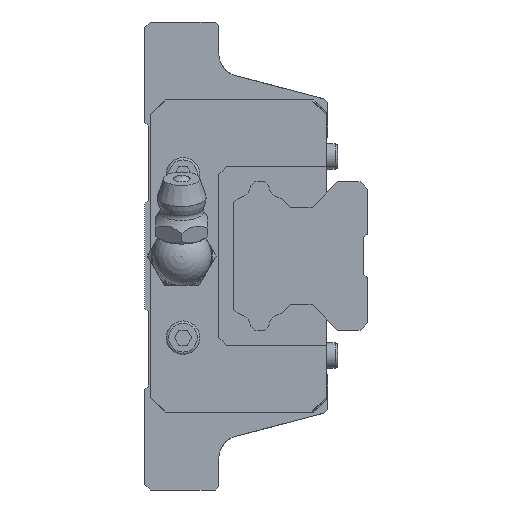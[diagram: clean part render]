
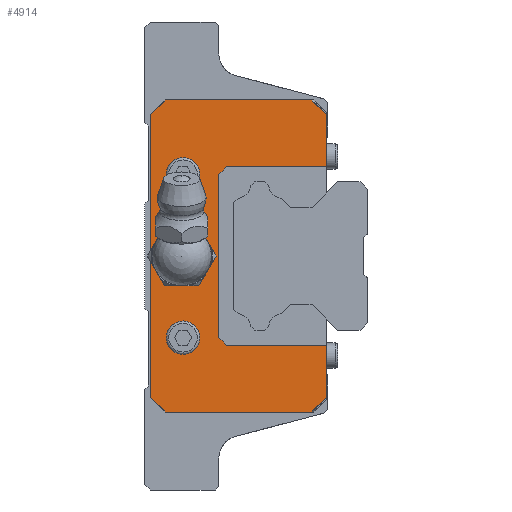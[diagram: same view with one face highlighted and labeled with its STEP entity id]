
A CAD part, left-side view. The second image highlights one B-rep face of the part: STEP entity #4914.
In plain terms, the highlighted planar face has unit normal (-1, 0, 0).
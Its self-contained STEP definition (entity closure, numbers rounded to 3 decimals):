
#230=CIRCLE('',#5337,3.);
#231=CIRCLE('',#5338,2.25);
#232=CIRCLE('',#5339,2.25);
#370=LINE('',#7177,#874);
#395=LINE('',#7233,#899);
#407=LINE('',#7259,#911);
#443=LINE('',#7335,#947);
#467=LINE('',#7381,#971);
#491=LINE('',#7437,#995);
#497=LINE('',#7454,#1001);
#646=LINE('',#7903,#1150);
#648=LINE('',#7906,#1152);
#655=LINE('',#7931,#1159);
#656=LINE('',#7934,#1160);
#657=LINE('',#7935,#1161);
#658=LINE('',#7937,#1162);
#659=LINE('',#7939,#1163);
#874=VECTOR('',#5797,1000.);
#899=VECTOR('',#5830,1000.);
#911=VECTOR('',#5850,1000.);
#947=VECTOR('',#5906,1000.);
#971=VECTOR('',#5952,1000.);
#995=VECTOR('',#5992,1000.);
#1001=VECTOR('',#6004,1000.);
#1150=VECTOR('',#6373,1000.);
#1152=VECTOR('',#6377,1000.);
#1159=VECTOR('',#6400,1000.);
#1160=VECTOR('',#6401,1000.);
#1161=VECTOR('',#6402,1000.);
#1162=VECTOR('',#6403,1000.);
#1163=VECTOR('',#6404,1000.);
#2119=ORIENTED_EDGE('',*,*,#3141,.T.);
#2120=ORIENTED_EDGE('',*,*,#3142,.F.);
#2121=ORIENTED_EDGE('',*,*,#3143,.F.);
#2122=ORIENTED_EDGE('',*,*,#3144,.T.);
#2123=ORIENTED_EDGE('',*,*,#3145,.T.);
#2124=ORIENTED_EDGE('',*,*,#2916,.F.);
#2125=ORIENTED_EDGE('',*,*,#3129,.T.);
#2126=ORIENTED_EDGE('',*,*,#2824,.F.);
#2127=ORIENTED_EDGE('',*,*,#2811,.F.);
#2128=ORIENTED_EDGE('',*,*,#2888,.F.);
#2129=ORIENTED_EDGE('',*,*,#2784,.F.);
#2130=ORIENTED_EDGE('',*,*,#2862,.F.);
#2131=ORIENTED_EDGE('',*,*,#3131,.T.);
#2132=ORIENTED_EDGE('',*,*,#2924,.F.);
#2133=ORIENTED_EDGE('',*,*,#3146,.T.);
#2134=ORIENTED_EDGE('',*,*,#3147,.T.);
#2135=ORIENTED_EDGE('',*,*,#3148,.T.);
#2784=EDGE_CURVE('',#3429,#3430,#370,.T.);
#2811=EDGE_CURVE('',#3456,#3457,#395,.T.);
#2824=EDGE_CURVE('',#3457,#3467,#407,.T.);
#2862=EDGE_CURVE('',#3496,#3429,#443,.T.);
#2888=EDGE_CURVE('',#3430,#3456,#467,.T.);
#2916=EDGE_CURVE('',#3531,#3532,#491,.T.);
#2924=EDGE_CURVE('',#3539,#3540,#497,.T.);
#3129=EDGE_CURVE('',#3531,#3467,#646,.T.);
#3131=EDGE_CURVE('',#3496,#3540,#648,.T.);
#3141=EDGE_CURVE('',#3697,#3697,#230,.T.);
#3142=EDGE_CURVE('',#3698,#3698,#231,.F.);
#3143=EDGE_CURVE('',#3699,#3699,#232,.F.);
#3144=EDGE_CURVE('',#3700,#3701,#655,.T.);
#3145=EDGE_CURVE('',#3701,#3532,#656,.T.);
#3146=EDGE_CURVE('',#3539,#3702,#657,.T.);
#3147=EDGE_CURVE('',#3702,#3703,#658,.T.);
#3148=EDGE_CURVE('',#3703,#3700,#659,.T.);
#3429=VERTEX_POINT('',#7176);
#3430=VERTEX_POINT('',#7178);
#3456=VERTEX_POINT('',#7232);
#3457=VERTEX_POINT('',#7234);
#3467=VERTEX_POINT('',#7260);
#3496=VERTEX_POINT('',#7334);
#3531=VERTEX_POINT('',#7436);
#3532=VERTEX_POINT('',#7438);
#3539=VERTEX_POINT('',#7453);
#3540=VERTEX_POINT('',#7455);
#3697=VERTEX_POINT('',#7926);
#3698=VERTEX_POINT('',#7928);
#3699=VERTEX_POINT('',#7930);
#3700=VERTEX_POINT('',#7932);
#3701=VERTEX_POINT('',#7933);
#3702=VERTEX_POINT('',#7936);
#3703=VERTEX_POINT('',#7938);
#4019=EDGE_LOOP('',(#2119));
#4020=EDGE_LOOP('',(#2120));
#4021=EDGE_LOOP('',(#2121));
#4022=EDGE_LOOP('',(#2122,#2123,#2124,#2125,#2126,#2127,#2128,#2129,#2130,
#2131,#2132,#2133,#2134,#2135));
#4384=FACE_BOUND('',#4019,.T.);
#4385=FACE_BOUND('',#4020,.T.);
#4386=FACE_BOUND('',#4021,.T.);
#4387=FACE_BOUND('',#4022,.T.);
#4676=PLANE('',#5336);
#4914=ADVANCED_FACE('',(#4384,#4385,#4386,#4387),#4676,.F.);
#5336=AXIS2_PLACEMENT_3D('',#7924,#6392,#6393);
#5337=AXIS2_PLACEMENT_3D('',#7925,#6394,#6395);
#5338=AXIS2_PLACEMENT_3D('',#7927,#6396,#6397);
#5339=AXIS2_PLACEMENT_3D('',#7929,#6398,#6399);
#5797=DIRECTION('',(0.,0.707,0.707));
#5830=DIRECTION('',(0.,-0.707,0.707));
#5850=DIRECTION('',(0.,-1.,0.));
#5906=DIRECTION('',(0.,1.,0.));
#5952=DIRECTION('',(0.,0.,1.));
#5992=DIRECTION('',(0.,0.,-1.));
#6004=DIRECTION('',(0.,0.,-1.));
#6373=DIRECTION('',(0.,0.707,0.707));
#6377=DIRECTION('',(0.,-0.707,0.707));
#6392=DIRECTION('',(1.,0.,0.));
#6393=DIRECTION('',(0.,0.,-1.));
#6394=DIRECTION('',(1.,0.,0.));
#6395=DIRECTION('',(0.,0.,-1.));
#6396=DIRECTION('',(1.,0.,0.));
#6397=DIRECTION('',(0.,0.,-1.));
#6398=DIRECTION('',(1.,0.,0.));
#6399=DIRECTION('',(0.,0.,-1.));
#6400=DIRECTION('',(0.,-0.707,0.707));
#6401=DIRECTION('',(0.,-1.,0.));
#6402=DIRECTION('',(0.,1.,0.));
#6403=DIRECTION('',(0.,0.707,0.707));
#6404=DIRECTION('',(0.,0.,1.));
#7176=CARTESIAN_POINT('',(-36.,23.2,-21.));
#7177=CARTESIAN_POINT('',(-36.,23.2,-21.));
#7178=CARTESIAN_POINT('',(-36.,25.2,-19.));
#7232=CARTESIAN_POINT('',(-36.,25.2,19.));
#7233=CARTESIAN_POINT('',(-36.,25.2,19.));
#7234=CARTESIAN_POINT('',(-36.,23.2,21.));
#7259=CARTESIAN_POINT('',(-36.,26.,21.));
#7260=CARTESIAN_POINT('',(-36.,3.517,21.));
#7334=CARTESIAN_POINT('',(-36.,3.517,-21.));
#7335=CARTESIAN_POINT('',(-36.,0.,-21.));
#7381=CARTESIAN_POINT('',(-36.,25.2,-19.));
#7436=CARTESIAN_POINT('',(-36.,1.517,19.));
#7437=CARTESIAN_POINT('',(-36.,1.517,16.));
#7438=CARTESIAN_POINT('',(-36.,1.517,12.));
#7453=CARTESIAN_POINT('',(-36.,1.517,-12.));
#7454=CARTESIAN_POINT('',(-36.,1.517,16.));
#7455=CARTESIAN_POINT('',(-36.,1.517,-19.));
#7903=CARTESIAN_POINT('',(-36.,3.517,21.));
#7906=CARTESIAN_POINT('',(-36.,1.517,-19.));
#7924=CARTESIAN_POINT('',(-36.,0.,0.));
#7925=CARTESIAN_POINT('',(-36.,21.,0.));
#7926=CARTESIAN_POINT('',(-36.,21.,-3.));
#7927=CARTESIAN_POINT('',(-36.,20.817,11.));
#7928=CARTESIAN_POINT('',(-36.,20.817,8.75));
#7929=CARTESIAN_POINT('',(-36.,20.817,-11.));
#7930=CARTESIAN_POINT('',(-36.,20.817,-13.25));
#7931=CARTESIAN_POINT('',(-36.,16.,11.));
#7932=CARTESIAN_POINT('',(-36.,16.,11.));
#7933=CARTESIAN_POINT('',(-36.,15.,12.));
#7934=CARTESIAN_POINT('',(-36.,15.,12.));
#7935=CARTESIAN_POINT('',(-36.,1.517,-12.));
#7936=CARTESIAN_POINT('',(-36.,15.,-12.));
#7937=CARTESIAN_POINT('',(-36.,15.,-12.));
#7938=CARTESIAN_POINT('',(-36.,16.,-11.));
#7939=CARTESIAN_POINT('',(-36.,16.,-11.));
